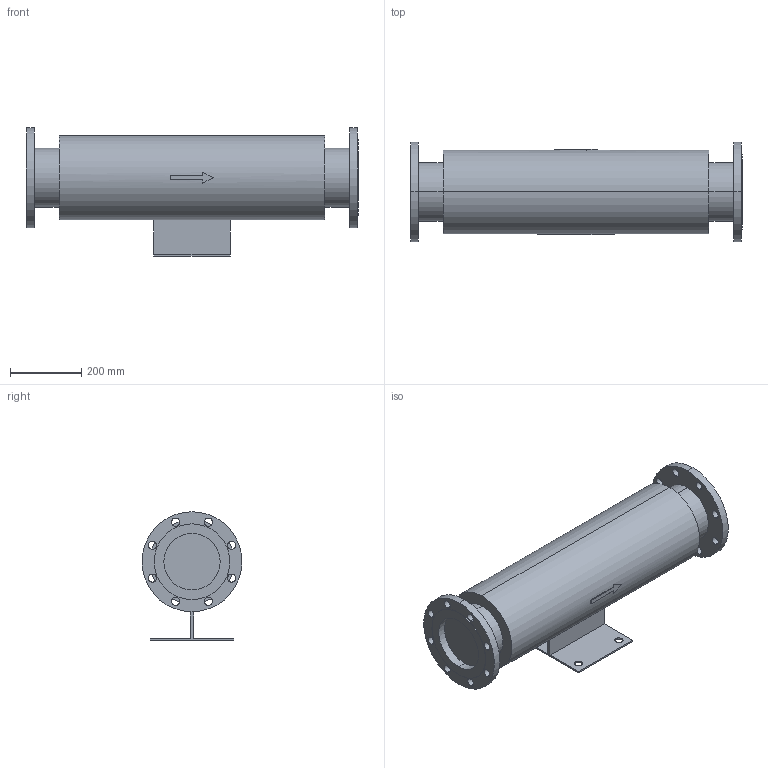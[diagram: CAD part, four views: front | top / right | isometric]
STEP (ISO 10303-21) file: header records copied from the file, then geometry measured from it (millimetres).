
FILE_DESCRIPTION( (''), '2;1');
FILE_NAME ('PC1027.12084.EB-2J　150A_4371.stp','2025-07-29T14:26:07',(''),(''),'spGate 20.6.3 (****-****-****-****)','','');
FILE_SCHEMA (('AUTOMOTIVE_DESIGN'));
Length unit declared in the file: millimetre
Bounding box: 930 x 280 x 360 mm (x, y, z)
Volume: 37442433.6 mm3; surface area: 1089524.6 mm2
Topology: 1 solids, 1 shells, 93 faces, 242 edges, 162 vertices
Faces by surface type: cylinder 58, plane 35
Entity records: 4849 total; most frequent: CARTESIAN_POINT 563, DIRECTION 492, ORIENTED_EDGE 484, COLOUR_RGB 336, PRESENTATION_STYLE_ASSIGNMENT 336, STYLED_ITEM 336, EDGE_CURVE 242, DRAUGHTING_PRE_DEFINED_CURVE_FONT 242
